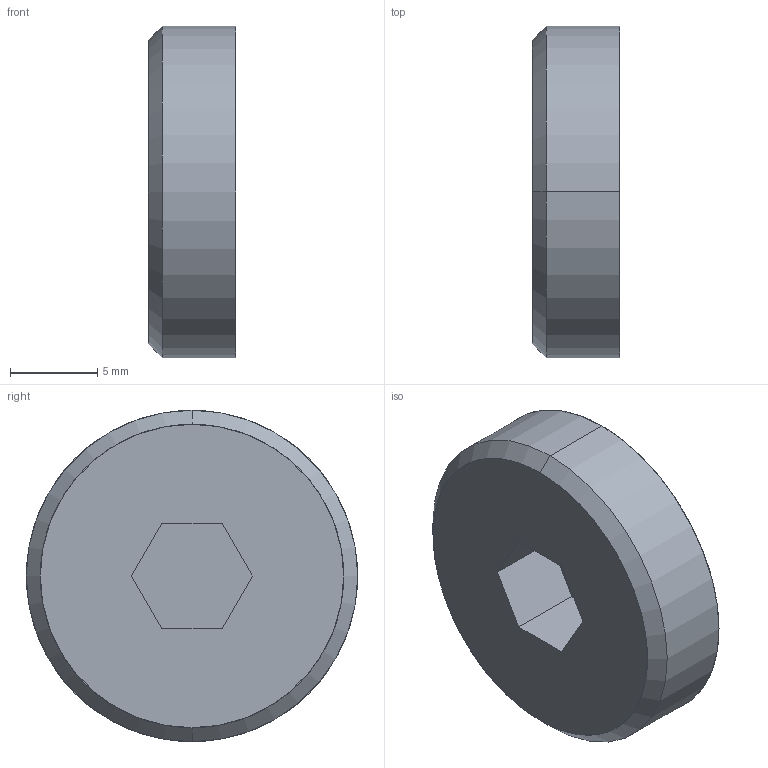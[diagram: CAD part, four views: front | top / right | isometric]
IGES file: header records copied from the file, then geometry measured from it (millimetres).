
Start section: Parasolid data in IGES format
Global section: file name: JZG020.igs; native system: Parasolid(11.1); preprocessor: Pariges 4.4; author: noname; organization: noname; date: 20050926.195119; units: millimetre
Bounding box: 5 x 19 x 19 mm (x, y, z)
Surface area: 926.1 mm2 (no closed solid volume)
Topology: 0 solids, 0 shells, 13 faces, 116 edges, 116 vertices
Faces by surface type: extrusion 9, revolution 4
